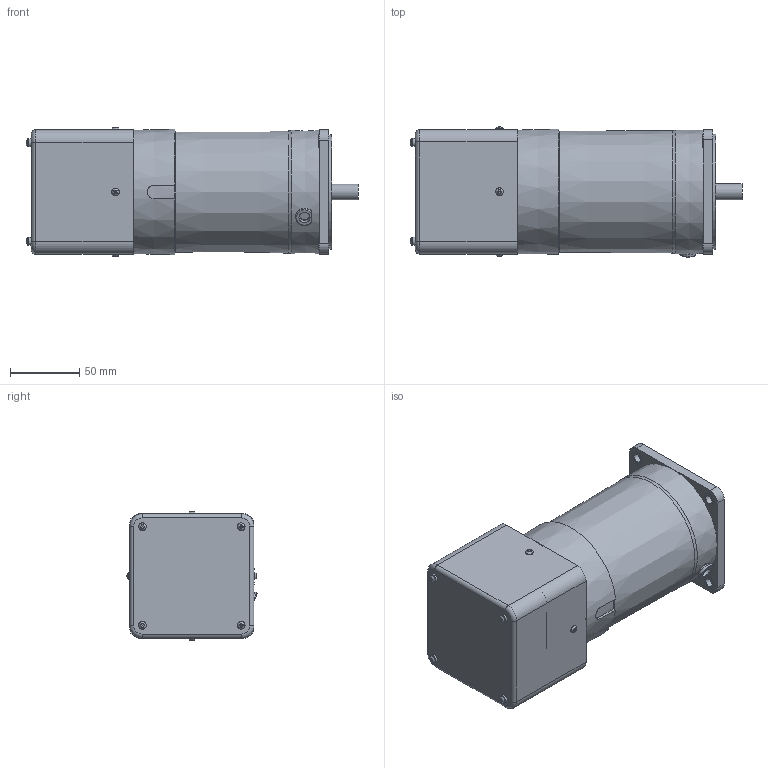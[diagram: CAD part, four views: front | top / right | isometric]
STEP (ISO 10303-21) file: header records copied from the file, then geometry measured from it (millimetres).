
FILE_DESCRIPTION((''),'2;1');
FILE_NAME('D:\STP파일\90W MOTOR\ES TYPE\S9I90G-ES.stp','2013-05-20T18:19:32',('leebh'),(''),'Autodesk Inventor 2011','Autodesk Inventor 2011','');
FILE_SCHEMA(('AUTOMOTIVE_DESIGN { 1 0 10303 214 1 1 1 1 }'));
Length unit declared in the file: millimetre
Products named in the file (1): 부품1
Bounding box: 240.25 x 94.19 x 93.89 mm (x, y, z)
Volume: 1219321.3 mm3; surface area: 116904.7 mm2
Topology: 1 solids, 7 shells, 291 faces, 703 edges, 452 vertices
Faces by surface type: plane 177, cylinder 72, torus 26, cone 8, bspline 8
Full cylindrical faces by diameter (mm): 3 x8, 4.5 x4, 5.6 x12, 6.5 x4, 8 x1, 9.5 x4, 10 x1, 11.5 x1, 40 x1, 83 x1, 86 x1
Entity records: 8850 total; most frequent: CARTESIAN_POINT 2300, DIRECTION 1254, ORIENTED_EDGE 1232, EDGE_CURVE 616, AXIS2_PLACEMENT_3D 462, VERTEX_POINT 437, EDGE_LOOP 409, VECTOR 330
